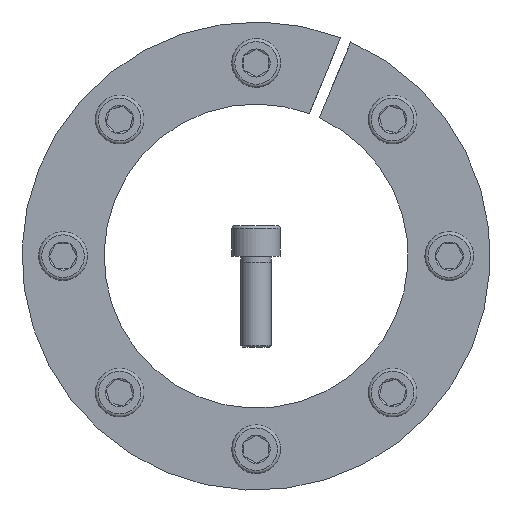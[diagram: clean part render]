
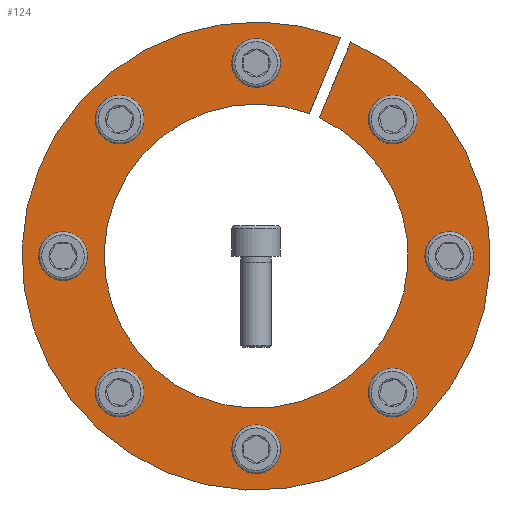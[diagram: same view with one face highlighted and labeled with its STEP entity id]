
A CAD part, front view. The second image highlights one B-rep face of the part: STEP entity #124.
In plain terms, the highlighted planar face has unit normal (0, -1, 0).
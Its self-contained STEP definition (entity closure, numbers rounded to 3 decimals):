
#124 = ADVANCED_FACE( '', ( #278, #279, #280, #281, #282, #283, #284, #285, #286 ), #287, .F. );
#278 = FACE_BOUND( '', #440, .T. );
#279 = FACE_BOUND( '', #441, .T. );
#280 = FACE_BOUND( '', #442, .T. );
#281 = FACE_BOUND( '', #443, .T. );
#282 = FACE_BOUND( '', #444, .T. );
#283 = FACE_BOUND( '', #445, .T. );
#284 = FACE_BOUND( '', #446, .T. );
#285 = FACE_BOUND( '', #447, .T. );
#286 = FACE_OUTER_BOUND( '', #448, .T. );
#287 = PLANE( '', #449 );
#440 = EDGE_LOOP( '', ( #724 ) );
#441 = EDGE_LOOP( '', ( #725 ) );
#442 = EDGE_LOOP( '', ( #726 ) );
#443 = EDGE_LOOP( '', ( #727 ) );
#444 = EDGE_LOOP( '', ( #728 ) );
#445 = EDGE_LOOP( '', ( #729 ) );
#446 = EDGE_LOOP( '', ( #730 ) );
#447 = EDGE_LOOP( '', ( #731 ) );
#448 = EDGE_LOOP( '', ( #732, #733, #734, #735 ) );
#449 = AXIS2_PLACEMENT_3D( '', #736, #737, #738 );
#724 = ORIENTED_EDGE( '', *, *, #817, .T. );
#725 = ORIENTED_EDGE( '', *, *, #858, .T. );
#726 = ORIENTED_EDGE( '', *, *, #802, .T. );
#727 = ORIENTED_EDGE( '', *, *, #887, .T. );
#728 = ORIENTED_EDGE( '', *, *, #877, .T. );
#729 = ORIENTED_EDGE( '', *, *, #855, .T. );
#730 = ORIENTED_EDGE( '', *, *, #805, .T. );
#731 = ORIENTED_EDGE( '', *, *, #811, .T. );
#732 = ORIENTED_EDGE( '', *, *, #884, .T. );
#733 = ORIENTED_EDGE( '', *, *, #822, .T. );
#734 = ORIENTED_EDGE( '', *, *, #825, .T. );
#735 = ORIENTED_EDGE( '', *, *, #835, .F. );
#736 = CARTESIAN_POINT( '', ( 0., 0., 77. ) );
#737 = DIRECTION( '', ( 0., 1., 0. ) );
#738 = DIRECTION( '', ( 0., 0., 1. ) );
#802 = EDGE_CURVE( '', #954, #954, #955, .T. );
#805 = EDGE_CURVE( '', #959, #959, #960, .T. );
#811 = EDGE_CURVE( '', #969, #969, #970, .T. );
#817 = EDGE_CURVE( '', #979, #979, #980, .T. );
#822 = EDGE_CURVE( '', #983, #987, #989, .T. );
#825 = EDGE_CURVE( '', #987, #992, #994, .T. );
#835 = EDGE_CURVE( '', #1010, #992, #1012, .T. );
#855 = EDGE_CURVE( '', #1044, #1044, #1045, .T. );
#858 = EDGE_CURVE( '', #1049, #1049, #1050, .T. );
#877 = EDGE_CURVE( '', #1078, #1078, #1079, .T. );
#884 = EDGE_CURVE( '', #1010, #983, #1086, .T. );
#887 = EDGE_CURVE( '', #1089, #1089, #1090, .T. );
#954 = VERTEX_POINT( '', #1241 );
#955 = CIRCLE( '', #1242, 5. );
#959 = VERTEX_POINT( '', #1246 );
#960 = CIRCLE( '', #1247, 5. );
#969 = VERTEX_POINT( '', #1256 );
#970 = CIRCLE( '', #1257, 5. );
#979 = VERTEX_POINT( '', #1266 );
#980 = CIRCLE( '', #1267, 5. );
#983 = VERTEX_POINT( '', #1270 );
#987 = VERTEX_POINT( '', #1275 );
#989 = CIRCLE( '', #1278, 77. );
#992 = VERTEX_POINT( '', #1281 );
#994 = LINE( '', #1284, #1285 );
#1010 = VERTEX_POINT( '', #1312 );
#1012 = CIRCLE( '', #1315, 50. );
#1044 = VERTEX_POINT( '', #1348 );
#1045 = CIRCLE( '', #1349, 5. );
#1049 = VERTEX_POINT( '', #1353 );
#1050 = CIRCLE( '', #1354, 5. );
#1078 = VERTEX_POINT( '', #1387 );
#1079 = CIRCLE( '', #1388, 5. );
#1086 = LINE( '', #1400, #1401 );
#1089 = VERTEX_POINT( '', #1404 );
#1090 = CIRCLE( '', #1405, 5. );
#1241 = CARTESIAN_POINT( '', ( 41.366, 0., -48.437 ) );
#1242 = AXIS2_PLACEMENT_3D( '', #1446, #1447, #1448 );
#1246 = CARTESIAN_POINT( '', ( -5., 0., -63.5 ) );
#1247 = AXIS2_PLACEMENT_3D( '', #1452, #1453, #1454 );
#1256 = CARTESIAN_POINT( '', ( -63.5, 0., 5. ) );
#1257 = AXIS2_PLACEMENT_3D( '', #1464, #1465, #1466 );
#1266 = CARTESIAN_POINT( '', ( -41.366, 0., 48.437 ) );
#1267 = AXIS2_PLACEMENT_3D( '', #1476, #1477, #1478 );
#1270 = CARTESIAN_POINT( '', ( 27.784, 0., 71.813 ) );
#1275 = CARTESIAN_POINT( '', ( 31.133, 0., 70.425 ) );
#1278 = AXIS2_PLACEMENT_3D( '', #1484, #1485, #1486 );
#1281 = CARTESIAN_POINT( '', ( 20.796, 0., 45.47 ) );
#1284 = CARTESIAN_POINT( '', ( 31.141, 0., 70.445 ) );
#1285 = VECTOR( '', #1488, 1000. );
#1312 = CARTESIAN_POINT( '', ( 17.447, 0., 46.857 ) );
#1315 = AXIS2_PLACEMENT_3D( '', #1495, #1496, #1497 );
#1348 = CARTESIAN_POINT( '', ( 63.5, 0., -5. ) );
#1349 = AXIS2_PLACEMENT_3D( '', #1538, #1539, #1540 );
#1353 = CARTESIAN_POINT( '', ( -48.437, 0., -41.366 ) );
#1354 = AXIS2_PLACEMENT_3D( '', #1544, #1545, #1546 );
#1387 = CARTESIAN_POINT( '', ( 5., 0., 63.5 ) );
#1388 = AXIS2_PLACEMENT_3D( '', #1576, #1577, #1578 );
#1400 = CARTESIAN_POINT( '', ( 17.447, 0., 46.857 ) );
#1401 = VECTOR( '', #1581, 1000. );
#1404 = CARTESIAN_POINT( '', ( 48.437, 0., 41.366 ) );
#1405 = AXIS2_PLACEMENT_3D( '', #1582, #1583, #1584 );
#1446 = CARTESIAN_POINT( '', ( 44.901, 0., -44.901 ) );
#1447 = DIRECTION( '', ( 0., 1., 0. ) );
#1448 = DIRECTION( '', ( -0.707, 0., -0.707 ) );
#1452 = CARTESIAN_POINT( '', ( 0., 0., -63.5 ) );
#1453 = DIRECTION( '', ( 0., 1., 0. ) );
#1454 = DIRECTION( '', ( -1., 0., 0. ) );
#1464 = CARTESIAN_POINT( '', ( -63.5, 0., 0. ) );
#1465 = DIRECTION( '', ( 0., 1., 0. ) );
#1466 = DIRECTION( '', ( 0., 0., 1. ) );
#1476 = CARTESIAN_POINT( '', ( -44.901, 0., 44.901 ) );
#1477 = DIRECTION( '', ( 0., 1., 0. ) );
#1478 = DIRECTION( '', ( 0.707, 0., 0.707 ) );
#1484 = CARTESIAN_POINT( '', ( 0., 0., 0. ) );
#1485 = DIRECTION( '', ( 0., -1., 0. ) );
#1486 = DIRECTION( '', ( 0., 0., -1. ) );
#1488 = DIRECTION( '', ( -0.383, 0., -0.924 ) );
#1495 = CARTESIAN_POINT( '', ( 0., 0., 0. ) );
#1496 = DIRECTION( '', ( 0., -1., 0. ) );
#1497 = DIRECTION( '', ( 0., 0., -1. ) );
#1538 = CARTESIAN_POINT( '', ( 63.5, 0., 0. ) );
#1539 = DIRECTION( '', ( 0., 1., 0. ) );
#1540 = DIRECTION( '', ( 0., 0., -1. ) );
#1544 = CARTESIAN_POINT( '', ( -44.901, 0., -44.901 ) );
#1545 = DIRECTION( '', ( 0., 1., 0. ) );
#1546 = DIRECTION( '', ( -0.707, 0., 0.707 ) );
#1576 = CARTESIAN_POINT( '', ( 0., 0., 63.5 ) );
#1577 = DIRECTION( '', ( 0., 1., 0. ) );
#1578 = DIRECTION( '', ( 1., 0., 0. ) );
#1581 = DIRECTION( '', ( 0.383, 0., 0.924 ) );
#1582 = CARTESIAN_POINT( '', ( 44.901, 0., 44.901 ) );
#1583 = DIRECTION( '', ( 0., 1., 0. ) );
#1584 = DIRECTION( '', ( 0.707, 0., -0.707 ) );
